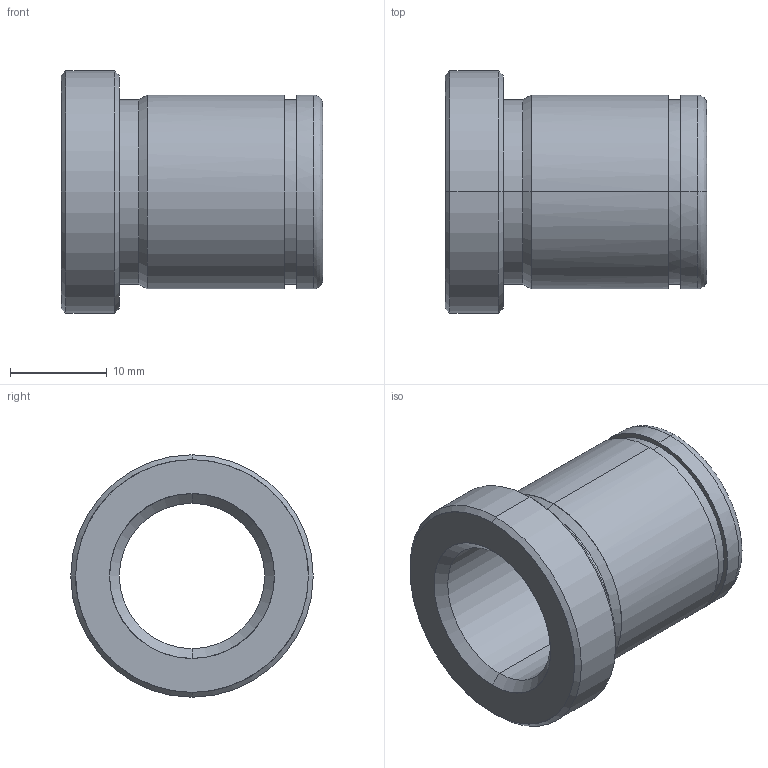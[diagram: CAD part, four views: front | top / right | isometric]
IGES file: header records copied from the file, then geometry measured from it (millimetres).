
Start section: START RECORD GO HERE.
Global section: file name: 553-15X27.igs; native system: DASSAULT SYSTEMES CATIA V5 R20 - www.3ds.com; preprocessor: CATIA Version 5 Release 20 ; author: Utente; organization: NB04-ASUS; date: 20210521.203909; units: millimetre
Bounding box: 27 x 25 x 25 mm (x, y, z)
Surface area: 3650 mm2 (no closed solid volume)
Topology: 0 solids, 0 shells, 28 faces, 176 edges, 176 vertices
Faces by surface type: revolution 24, plane 4
